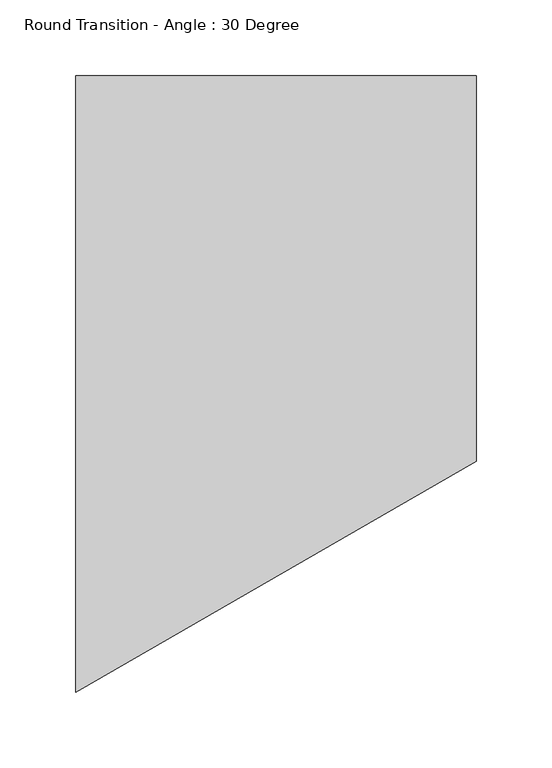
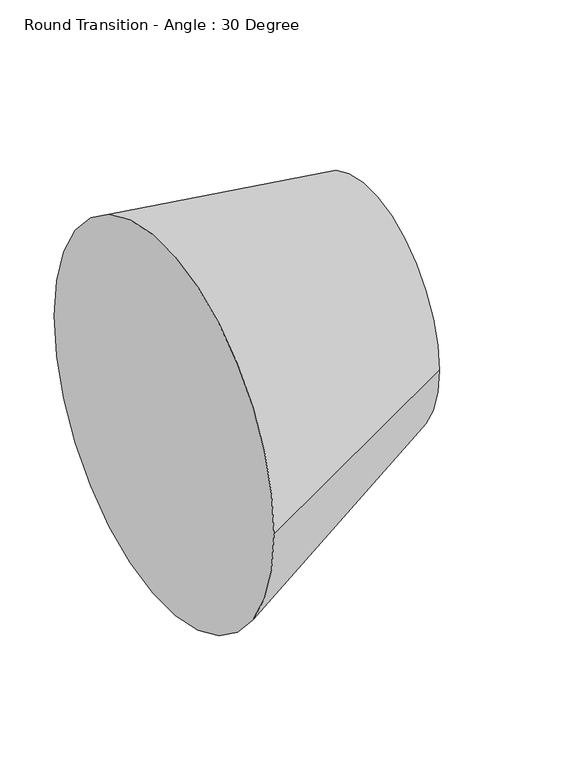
"""IFC4 building model written with IfcOpenShell, lengths in millimetres: duct fitting geometry, Round Transition - Angle : 30 Degree."""

import ifcopenshell
import ifcopenshell.guid

model = None  # the IFC model being written
_history = None  # IfcOwnerHistory: only IFC2X3 demands one
_inside = {}  # id of a spatial element -> (the spatial element, [elements in it])
_under = {}  # id of a project, library or spatial element -> (it, [spatial elements below it])
_declared = {}  # id of a project -> (the project, [libraries it declares])
_typed = {}  # id of a type object -> (the type object, [elements of that type])
_made_of = {}  # id of a material, layer set ... -> (it, [elements and type objects made of it])


def new_model(schema):
    """Start an empty IFC model of exactly this schema.

    Asked for "IFC4X3", IfcOpenShell would pick the latest addendum, in which some entities
    have other attributes; the version numbers below select the first issue.
    IFC2X3 requires an IfcOwnerHistory on every rooted entity: one is made here for all.
    """
    global model, _history
    if schema == "IFC4X3":
        model = ifcopenshell.file(schema_version=(4, 3, 0, 0))
    else:
        model = ifcopenshell.file(schema=schema)
    _inside.clear()
    _under.clear()
    _declared.clear()
    _typed.clear()
    _made_of.clear()
    _history = None
    if model.schema == "IFC2X3":
        org = make("IfcOrganization", Name="unknown")
        user = make(
            "IfcPersonAndOrganization",
            ThePerson=make("IfcPerson", FamilyName="unknown"),
            TheOrganization=org,
        )
        app = make(
            "IfcApplication",
            ApplicationDeveloper=org,
            Version="unknown",
            ApplicationFullName="unknown",
            ApplicationIdentifier="unknown",
        )
        _history = make(
            "IfcOwnerHistory",
            OwningUser=user,
            OwningApplication=app,
            ChangeAction="ADDED",
            CreationDate=0,
        )
    return model


def make(cls, **values):
    """One entity of the class cls with the attributes given. An attribute that is None is left unset."""
    return model.create_entity(
        cls, **{name: value for name, value in values.items() if value is not None}
    )


def rooted(cls, **values):
    """An entity with a GlobalId (a new one), such as an element, a storey or a relation."""
    return make(cls, GlobalId=ifcopenshell.guid.new(), OwnerHistory=_history, **values)


def si_unit(unit_type, name, prefix=None):
    """IfcSIUnit, for example si_unit("LENGTHUNIT", "METRE", prefix="MILLI")."""
    return make("IfcSIUnit", UnitType=unit_type, Prefix=prefix, Name=name)


def assignment(units):
    """IfcUnitAssignment: the units of a project."""
    return None if units is None else make("IfcUnitAssignment", Units=units)


def point(xyz):
    """IfcCartesianPoint."""
    return None if xyz is None else make("IfcCartesianPoint", Coordinates=xyz)


def direction(xyz):
    """IfcDirection."""
    return None if xyz is None else make("IfcDirection", DirectionRatios=xyz)


def frame(location, z_axis=None, x_axis=None):
    """IfcAxis2Placement3D, a coordinate frame: its origin and axes. An axis left out is left unset."""
    return make(
        "IfcAxis2Placement3D",
        Location=point(location),
        Axis=direction(z_axis),
        RefDirection=direction(x_axis),
    )


def origin():
    """The frame at (0, 0, 0) with its axes left unset."""
    return frame((0.0, 0.0, 0.0))


def place(relative_to, where):
    """IfcLocalPlacement: puts the frame where relative to a parent placement (None: the world)."""
    return make(
        "IfcLocalPlacement", PlacementRelTo=relative_to, RelativePlacement=where
    )


def context(
    kind, dimensions, precision=None, world=None, true_north=None, identifier=None
):
    """IfcGeometricRepresentationContext, for example the 3D "Model" context."""
    return make(
        "IfcGeometricRepresentationContext",
        ContextIdentifier=identifier,
        ContextType=kind,
        CoordinateSpaceDimension=dimensions,
        Precision=precision,
        WorldCoordinateSystem=world,
        TrueNorth=true_north,
    )


def project(units=None, contexts=None):
    """IfcProject with its units and contexts."""
    return rooted(
        "IfcProject",
        Name="project",
        RepresentationContexts=contexts,
        UnitsInContext=assignment(units),
    )


def spatial(cls, under=None, at=None, **own):
    """A site, building, storey or space (cls), placed at a placement, below another one or the project."""
    s = rooted(cls, ObjectPlacement=at, **own)
    if under is not None:
        _under.setdefault(under.id(), (under, []))[1].append(s)
    return s


def circle_curve(where, radius):
    """IfcCircle in the frame where."""
    return make("IfcCircle", Position=where, Radius=radius)


def shape(context_of_items, identifier, shape_type, items):
    """IfcShapeRepresentation: the items that make up one representation, for example the "Body"."""
    return make(
        "IfcShapeRepresentation",
        ContextOfItems=context_of_items,
        RepresentationIdentifier=identifier,
        RepresentationType=shape_type,
        Items=items,
    )


def source(mapping_origin, context_of_items, identifier, shape_type, items):
    """IfcRepresentationMap: a shape defined once, which mapped items show again and again."""
    return make(
        "IfcRepresentationMap",
        MappingOrigin=mapping_origin,
        MappedRepresentation=shape(context_of_items, identifier, shape_type, items),
    )


def transform(
    local_origin,
    x_axis=None,
    y_axis=None,
    z_axis=None,
    scale=None,
    scale2=None,
    scale3=None,
    uniform=True,
):
    """IfcCartesianTransformationOperator3D, or its non-uniform kind. x_axis, y_axis, z_axis: its Axis1, 2, 3."""
    if uniform:
        return make(
            "IfcCartesianTransformationOperator3D",
            Axis1=direction(x_axis),
            Axis2=direction(y_axis),
            LocalOrigin=point(local_origin),
            Scale=scale,
            Axis3=direction(z_axis),
        )
    return make(
        "IfcCartesianTransformationOperator3DnonUniform",
        Axis1=direction(x_axis),
        Axis2=direction(y_axis),
        LocalOrigin=point(local_origin),
        Scale=scale,
        Axis3=direction(z_axis),
        Scale2=scale2,
        Scale3=scale3,
    )


def mapped(mapping_source, mapping_target):
    """IfcMappedItem: shows the shape of a source again, moved by a transform."""
    return make(
        "IfcMappedItem", MappingSource=mapping_source, MappingTarget=mapping_target
    )


def made_of(thing, what):
    """Note that an element or type object is made of a material, layer set ...; save() writes the relation."""
    if what is not None:
        _made_of.setdefault(what.id(), (what, []))[1].append(thing)
    return thing


def element(
    cls,
    number,
    at=None,
    inside=None,
    cuts=None,
    type_object=None,
    material=None,
    context=None,
    identifier="Body",
    shape_type=None,
    held_by="IfcProductDefinitionShape",
    body=None,
    shapes=None,
    **own,
):
    """One element of the class cls, such as IfcWall. Its Tag is "e" and its number.

    at: its placement. inside: the storey or other place that contains it. cuts: it is an
    opening in that element (IfcRelVoidsElement). A single representation is given by context,
    identifier, shape_type and body (its items); several are given by shapes. held_by: the class
    of the entity that holds the representations. save() writes the other relations.
    """
    e = rooted(cls, Tag="e%d" % number, ObjectPlacement=at, **own)
    if body is not None:
        shapes = [shape(context, identifier, shape_type, body)]
    if shapes is not None:
        e.Representation = make(held_by, Representations=shapes)
    if inside is not None:
        _inside.setdefault(inside.id(), (inside, []))[1].append(e)
    if cuts is not None:
        rooted(
            "IfcRelVoidsElement", RelatingBuildingElement=cuts, RelatedOpeningElement=e
        )
    if type_object is not None:
        _typed.setdefault(type_object.id(), (type_object, []))[1].append(e)
    return made_of(e, material)


def aggregate(whole, parts):
    """IfcRelAggregates: a whole, such as a stair, and the parts it consists of."""
    return rooted("IfcRelAggregates", RelatingObject=whole, RelatedObjects=parts)


def save(model, path):
    """Write the relations noted so far, then the file.

    IfcRelAggregates (storeys below a building ...), IfcRelContainedInSpatialStructure (elements
    in a storey), IfcRelDefinesByType, IfcRelAssociatesMaterial and IfcRelDeclares: one each for
    every whole, place, type object, material and project.
    """
    for whole, parts in _under.values():
        aggregate(whole, parts)
    for where, things in _inside.values():
        rooted(
            "IfcRelContainedInSpatialStructure",
            RelatedElements=things,
            RelatingStructure=where,
        )
    for kind, things in _typed.values():
        rooted("IfcRelDefinesByType", RelatedObjects=things, RelatingType=kind)
    for what, things in _made_of.values():
        rooted("IfcRelAssociatesMaterial", RelatedObjects=things, RelatingMaterial=what)
    for by, libraries in _declared.values():
        rooted("IfcRelDeclares", RelatingContext=by, RelatedDefinitions=libraries)
    model.write(path)


def plane_surface(at):
    """IfcPlane: the flat surface through the origin of the frame at, square to its z axis."""
    return make("IfcPlane", Position=at)


def spline_surface(u_degree, v_degree, points, u_multiplicities, v_multiplicities, u_knots, v_knots, weights=None):
    """IfcBSplineSurfaceWithKnots; with weights, IfcRationalBSplineSurfaceWithKnots. points: one row for each step in u."""
    own = dict(
        UDegree=u_degree,
        VDegree=v_degree,
        ControlPointsList=[[point(p) for p in row] for row in points],
        SurfaceForm="UNSPECIFIED",
        UClosed=False,
        VClosed=False,
        SelfIntersect=False,
        UMultiplicities=u_multiplicities,
        VMultiplicities=v_multiplicities,
        UKnots=u_knots,
        VKnots=v_knots,
        KnotSpec="UNSPECIFIED",
    )
    if weights is None:
        return make("IfcBSplineSurfaceWithKnots", **own)
    return make("IfcRationalBSplineSurfaceWithKnots", WeightsData=weights, **own)


def advanced_brep(points, edges, surfaces, faces):
    """IfcAdvancedBrep: a solid bounded by faces that lie on surfaces and meet in shared edges.

    An edge is (start, end): straight between two places in points (the first is 0);
    or (start, end, curve); or (start, end, curve, False) where it runs against its curve.
    A face is (place in surfaces, loops), or (place, loops, False) where it looks against
    its surface's normal. A loop lists edges by number (the first is 1), with a minus sign
    where the edge is run from its end to its start. The first loop is the outer one.
    """
    corners = [point(p) for p in points]
    vertices = [make("IfcVertexPoint", VertexGeometry=c) for c in corners]
    made = []
    for start, end, *more in edges:
        made.append(
            make(
                "IfcEdgeCurve",
                EdgeStart=vertices[start],
                EdgeEnd=vertices[end],
                EdgeGeometry=more[0] if more else make("IfcPolyline", Points=[corners[start], corners[end]]),
                SameSense=more[1] if len(more) > 1 else True,
            )
        )
    hull = []
    for where, loops, *sense in faces:
        bounds = []
        for j, loop in enumerate(loops):
            ring = [make("IfcOrientedEdge", EdgeElement=made[abs(k) - 1], Orientation=k > 0) for k in loop]
            bounds.append(
                make(
                    "IfcFaceOuterBound" if j == 0 else "IfcFaceBound",
                    Bound=make("IfcEdgeLoop", EdgeList=ring),
                    Orientation=True,
                )
            )
        hull.append(make("IfcAdvancedFace", Bounds=bounds, FaceSurface=surfaces[where], SameSense=sense[0] if sense else True))
    return make("IfcAdvancedBrep", Outer=make("IfcClosedShell", CfsFaces=hull))


def round_transition_angle_30_degree_8316bf86(model_context):
    return source(origin(), model_context, "Body", "AdvancedBrep", [
        advanced_brep(
        [(263.9645431, -50.8, 0.0), (263.9645431, 203.2, 0.0), (0.0, -203.2, 0.0), (0.0, 203.2, 0.0)],
        [
            (0, 1, circle_curve(frame((263.9645431, 76.2, 0.0), z_axis=(1.0, 0.0, 0.0), x_axis=(0.0, 1.0, 0.0)), 127.0)),
            (1, 0, circle_curve(frame((263.9645431, 76.2, 0.0), z_axis=(1.0, 0.0, 0.0), x_axis=(0.0, 1.0, 0.0)), 127.0)),
            (2, 3, circle_curve(frame((0.0, 0.0, 0.0), z_axis=(-1.0, 0.0, 0.0), x_axis=(0.0, 1.0, 0.0)), 203.2)),
            (3, 2, circle_curve(frame((0.0, 0.0, 0.0), z_axis=(-1.0, 0.0, 0.0), x_axis=(0.0, 1.0, 0.0)), 203.2)),
            (3, 1),
            (0, 2),
        ],
        [
            plane_surface(frame((263.9645431, 76.2, 0.0), z_axis=(1.0, 0.0, 0.0), x_axis=(0.0, 0.0, -1.0))),
            plane_surface(frame((0.0, 0.0, 0.0), z_axis=(-1.0, 0.0, 0.0), x_axis=(0.0, 0.0, -1.0))),
            spline_surface(2, 1, [[(0.0, -203.2, 0.0), (263.9645431, -50.8, 0.0)], [(0.0, -203.2, -203.2), (263.9645431, -50.8, -127.0)], [(0.0, 0.0, -203.2), (263.9645431, 76.2, -127.0)], [(0.0, 203.2, -203.2), (263.9645431, 203.2, -127.0)], [(0.0, 203.2, 0.0), (263.9645431, 203.2, 0.0)]], [3, 2, 3], [2, 2], [0.0, 1.0, 2.0], [0.0, 1.0], weights=[[1.0, 1.0], [0.7071067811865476, 0.7071067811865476], [1.0, 1.0], [0.7071067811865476, 0.7071067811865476], [1.0, 1.0]]),
            spline_surface(2, 1, [[(0.0, 203.2, 0.0), (263.9645431, 203.2, 0.0)], [(0.0, 203.2, 203.2), (263.9645431, 203.2, 126.99999999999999)], [(0.0, 0.0, 203.2), (263.9645431, 76.2, 126.99999999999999)], [(0.0, -203.2, 203.2), (263.9645431, -50.79999999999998, 126.99999999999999)], [(0.0, -203.2, 0.0), (263.9645431, -50.8, 0.0)]], [3, 2, 3], [2, 2], [0.0, 1.0, 2.0], [0.0, 1.0], weights=[[1.0, 1.0], [0.7071067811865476, 0.7071067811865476], [1.0, 1.0], [0.7071067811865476, 0.7071067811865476], [1.0, 1.0]]),
        ],
        [
            (0, [[1, 2]]),
            (1, [[3, 4]]),
            (2, [[-4, 5, -1, 6]]),
            (3, [[-3, -6, -2, -5]]),
        ],
    ),
    ])


if __name__ == "__main__":
    model = new_model("IFC4")
    model_context = context("Model", 3, world=origin())
    ifc_project = project(units=[si_unit("LENGTHUNIT", "METRE", prefix="MILLI")], contexts=[model_context])
    site = spatial("IfcSite", under=ifc_project)
    building = spatial("IfcBuilding", under=site)
    placement = place(None, origin())
    round_transition_angle_30_degree_shape = round_transition_angle_30_degree_8316bf86(model_context)
    element("IfcDuctFitting", 1, ObjectType="Round Transition - Angle : 30 Degree", at=placement, inside=building, context=model_context, shape_type="MappedRepresentation", body=[
        mapped(round_transition_angle_30_degree_shape, transform((0.0, 0.0, 0.0), x_axis=(1.0, 0.0, 0.0), y_axis=(0.0, 1.0, 0.0), z_axis=(0.0, 0.0, 1.0))),
    ])
    save(model, "model.ifc")
